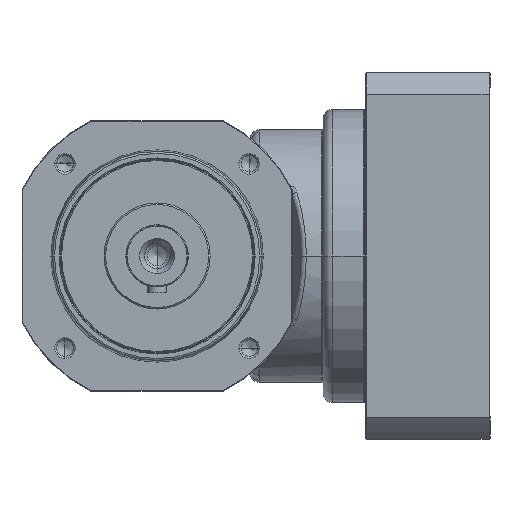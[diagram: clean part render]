
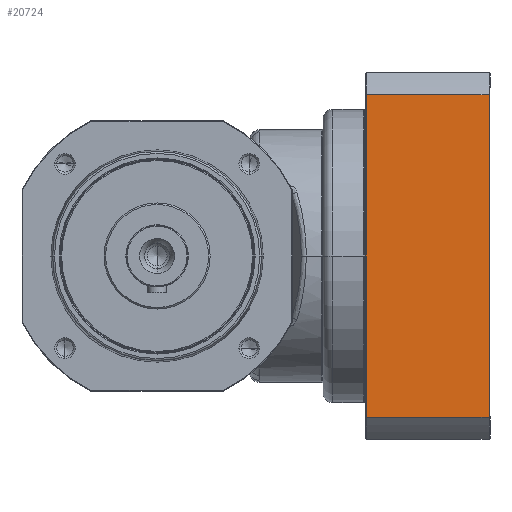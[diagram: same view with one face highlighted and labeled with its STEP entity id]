
A CAD part, left-side view. The second image highlights one B-rep face of the part: STEP entity #20724.
In plain terms, the highlighted planar face has unit normal (-1, 0, 0) as drawn and (0, -1, 0) by its records, which use the part's own axes.
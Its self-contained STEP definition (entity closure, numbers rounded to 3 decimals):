
#19576=DIRECTION('',(1.,0.,0.));
#19577=VECTOR('',#19576,167.06);
#19578=CARTESIAN_POINT('',(-83.53,-95.,
3.));
#19579=LINE('',#19578,#19577);
#19580=DIRECTION('',(0.,0.,1.));
#19581=VECTOR('',#19580,63.5);
#19582=CARTESIAN_POINT('',(-83.53,-95.,
3.));
#19583=LINE('',#19582,#19581);
#19584=DIRECTION('',(1.,0.,0.));
#19585=VECTOR('',#19584,167.06);
#19586=CARTESIAN_POINT('',(-83.53,-95.,
66.5));
#19587=LINE('',#19586,#19585);
#19588=DIRECTION('',(0.,0.,1.));
#19589=VECTOR('',#19588,63.5);
#19590=CARTESIAN_POINT('',(83.53,-95.,
3.));
#19591=LINE('',#19590,#19589);
#20289=CARTESIAN_POINT('',(-83.53,-95.,
66.5));
#20290=CARTESIAN_POINT('',(83.53,-95.,
66.5));
#20291=VERTEX_POINT('',#20289);
#20292=VERTEX_POINT('',#20290);
#20326=CARTESIAN_POINT('',(-83.53,-95.,3.));
#20328=VERTEX_POINT('',#20326);
#20331=CARTESIAN_POINT('',(83.53,-95.,
3.));
#20332=VERTEX_POINT('',#20331);
#20710=CARTESIAN_POINT('',(-95.,-95.,0.));
#20711=DIRECTION('',(0.,-1.,0.));
#20712=DIRECTION('',(1.,0.,0.));
#20713=AXIS2_PLACEMENT_3D('',#20710,#20711,#20712);
#20714=PLANE('',#20713);
#20715=ORIENTED_EDGE('',*,*,#20704,.F.);
#20717=ORIENTED_EDGE('',*,*,#20716,.T.);
#20719=ORIENTED_EDGE('',*,*,#20718,.T.);
#20721=ORIENTED_EDGE('',*,*,#20720,.F.);
#20722=EDGE_LOOP('',(#20715,#20717,#20719,#20721));
#20723=FACE_OUTER_BOUND('',#20722,.F.);
#20724=ADVANCED_FACE('',(#20723),#20714,.T.);
#20704=EDGE_CURVE('',#20328,#20332,#19579,.T.);
#20716=EDGE_CURVE('',#20328,#20291,#19583,.T.);
#20718=EDGE_CURVE('',#20291,#20292,#19587,.T.);
#20720=EDGE_CURVE('',#20332,#20292,#19591,.T.);
